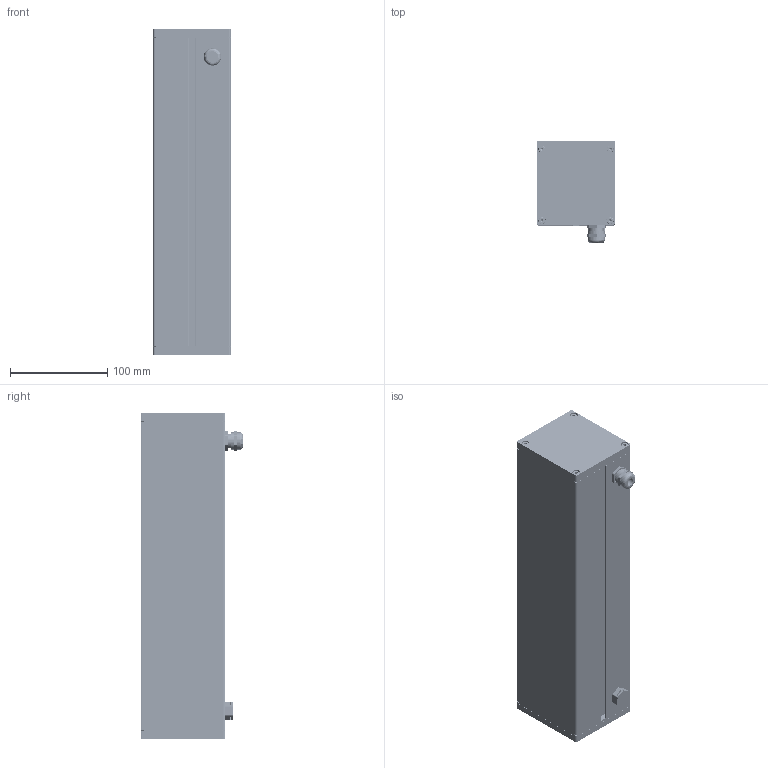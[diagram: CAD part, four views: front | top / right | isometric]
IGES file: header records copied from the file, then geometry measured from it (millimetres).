
Start section: SolidWorks IGES file using analytic representation for surfaces
Global section: file name: C:\Users\User2\Desktop\Lego IGS\Lego 8x2.IGS; native system: SolidWorks 2024; preprocessor: SolidWorks 2024; author: User2; date: 251022.124432; units: millimetre
Bounding box: 80 x 104.9 x 336 mm (x, y, z)
Surface area: 446182.4 mm2 (no closed solid volume)
Topology: 0 solids, 0 shells, 3258 faces, 39806 edges, 39774 vertices
Faces by surface type: bspline 1905, revolution 1353
